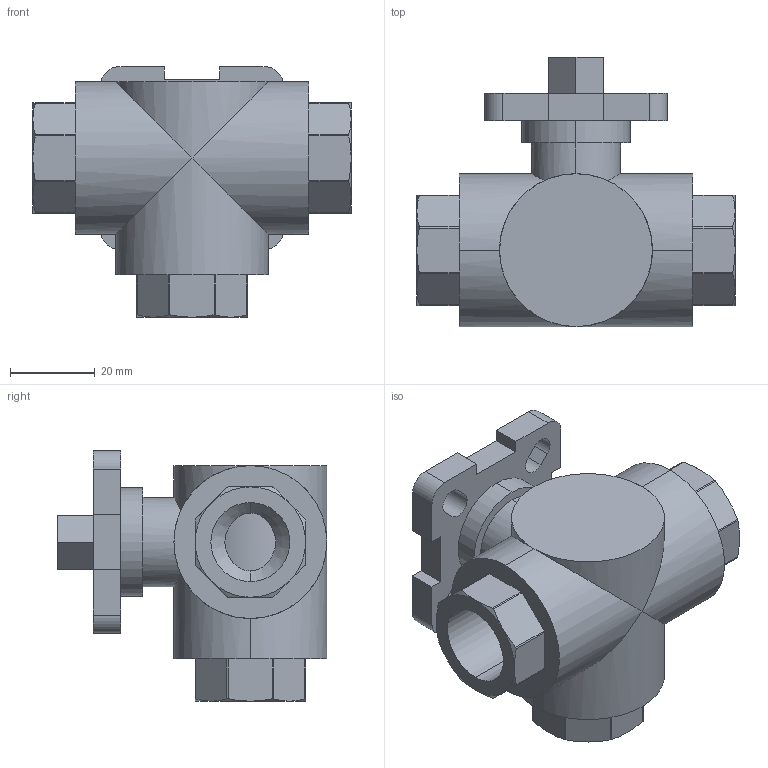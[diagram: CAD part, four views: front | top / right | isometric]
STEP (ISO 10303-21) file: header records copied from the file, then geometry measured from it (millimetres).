
FILE_DESCRIPTION (( 'STEP AP203' ), '1' );
FILE_NAME ('04.622I0150FVPB0.STEP', '2018-10-05T12:04:05', ( '' ), ( '' ), 'SwSTEP 2.0', 'SolidWorks 2014', '' );
FILE_SCHEMA (( 'CONFIG_CONTROL_DESIGN' ));
Length unit declared in the file: millimetre
Products named in the file (1): 04.622I0150FVPB0
Bounding box: 75 x 63.5 x 59 mm (x, y, z)
Volume: 88134.2 mm3; surface area: 21363.4 mm2
Topology: 1 solids, 1 shells, 165 faces, 423 edges, 269 vertices
Faces by surface type: cylinder 68, plane 67, cone 30
Entity records: 5544 total; most frequent: CARTESIAN_POINT 1496, ORIENTED_EDGE 846, DIRECTION 811, EDGE_CURVE 423, AXIS2_PLACEMENT_3D 302, VERTEX_POINT 269, VECTOR 207, LINE 207
